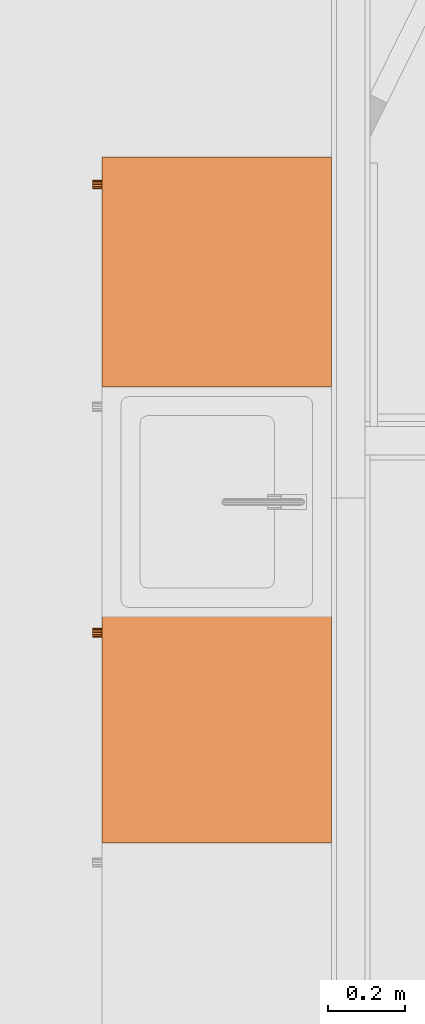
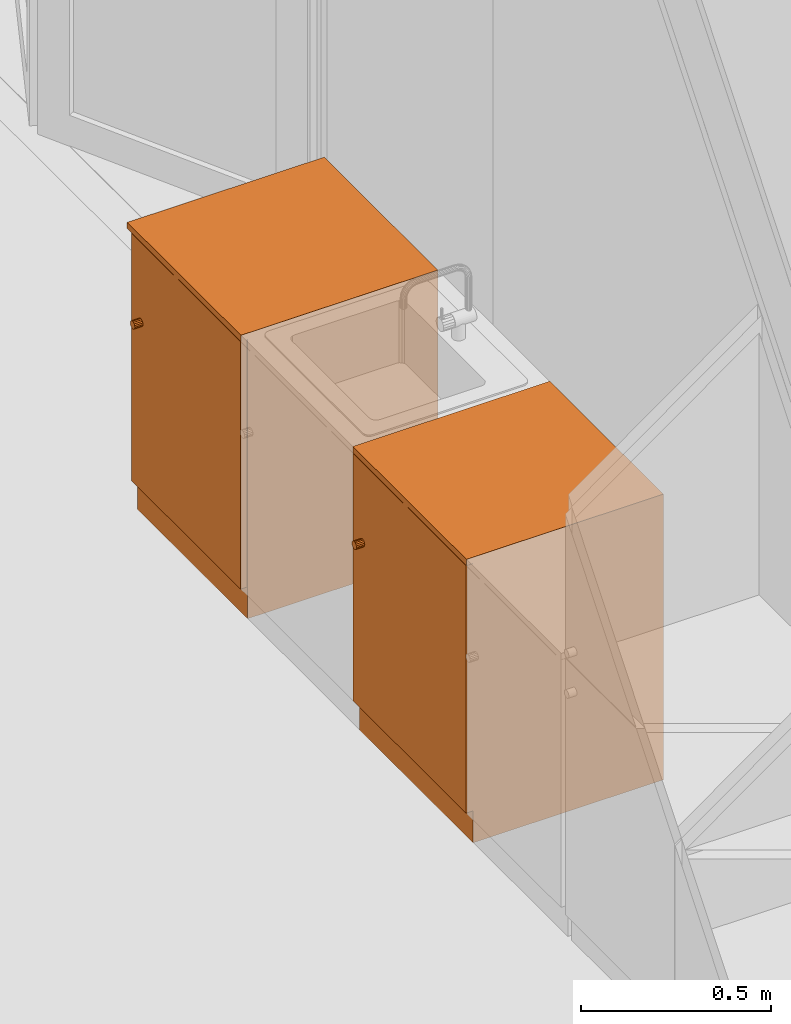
# One storey, part 81 of 167: 2 proxies.
"""IFC2X3 building model written with IfcOpenShell, lengths in millimetres."""

from ifc_helpers import new_model, entity, si_unit, converted_unit, derived_unit, money_unit, direction, frame, origin_with_axes, place, context, subcontext, project, spatial, faceted_brep, source, transform, mapped, type_object, type_shapes, element, save


model = new_model("IFC2X3")

# Units and contexts
model_context = context("Model", 3, precision=0.01, world=origin_with_axes(), true_north=direction((0.0, 1.0)))
plan_context = context("Plan", 3, precision=0.01, world=origin_with_axes(), true_north=direction((0.0, 1.0)))
body_context = subcontext(model_context, "Body", "Model", "MODEL_VIEW")
ifc_project = project(units=[si_unit("LENGTHUNIT", "METRE", prefix="MILLI"), si_unit("AREAUNIT", "SQUARE_METRE"), si_unit("VOLUMEUNIT", "CUBIC_METRE"), converted_unit("PLANEANGLEUNIT", "DEGREE", entity("IfcPlaneAngleMeasure", 0.0174532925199), si_unit("PLANEANGLEUNIT", "RADIAN"), dimensions=[0, 0, 0, 0, 0, 0, 0]), si_unit("SOLIDANGLEUNIT", "STERADIAN"), money_unit("EUR"), converted_unit("TIMEUNIT", "Year", entity("IfcTimeMeasure", 31556926.0), si_unit("TIMEUNIT", "SECOND"), dimensions=[0, 0, 1, 0, 0, 0, 0]), si_unit("MASSUNIT", "GRAM", prefix="KILO"), si_unit("THERMODYNAMICTEMPERATUREUNIT", "DEGREE_CELSIUS"), si_unit("LUMINOUSINTENSITYUNIT", "LUMEN"), si_unit("ENERGYUNIT", "JOULE", prefix="MEGA"), derived_unit("THERMALCONDUCTANCEUNIT", [(si_unit("POWERUNIT", "WATT"), 1), (si_unit("LENGTHUNIT", "METRE"), -1), (si_unit("THERMODYNAMICTEMPERATUREUNIT", "KELVIN"), -1)]), derived_unit("SPECIFICHEATCAPACITYUNIT", [(si_unit("ENERGYUNIT", "JOULE"), 1), (si_unit("MASSUNIT", "GRAM", prefix="KILO"), -1), (si_unit("THERMODYNAMICTEMPERATUREUNIT", "KELVIN"), -1)]), derived_unit("MASSDENSITYUNIT", [(si_unit("MASSUNIT", "GRAM", prefix="KILO"), 1), (si_unit("VOLUMEUNIT", "CUBIC_METRE"), -1)])], contexts=[model_context, plan_context])

# Site, building, storey
site_placement = place(None, origin_with_axes())
site = spatial("IfcSite", under=ifc_project, at=site_placement, Name="Site", CompositionType="ELEMENT")
building_placement = place(site_placement, origin_with_axes())
building = spatial("IfcBuilding", under=site, at=building_placement, Name="Naam gebouw", CompositionType="ELEMENT")
storey_placement = place(building_placement, origin_with_axes())
storey = spatial("IfcBuildingStorey", under=building, at=storey_placement, Name="Begane grond", CompositionType="ELEMENT", Elevation=0.0)

# Proxies
building_element_proxy_type = type_object("IfcBuildingElementProxyType", Name="Kast basis 1D 24", PredefinedType="NOTDEFINED")
shared_shape_1 = source(origin_with_axes(), body_context, "Body", "Brep", [
    faceted_brep([(0.0, 20.0, 0.0), (0.0, 20.0, 100.0), (-580.0, 20.0, 100.0), (-580.0, 20.0, 0.0), (0.0, 600.0, 0.0), (0.0, 600.0, 100.0), (-580.0, 600.0, 100.0), (-580.0, 600.0, 0.0)], [[[0, 1, 2, 3]], [[4, 5, 1, 0]], [[1, 5, 6, 2]], [[3, 2, 6, 7]], [[0, 3, 7, 4]], [[7, 6, 5, 4]]]),
    faceted_brep([(0.0, 20.0, 880.0), (0.0, 20.0, 900.0), (-20.0, 20.0, 900.0), (-20.0, 20.0, 880.0), (0.0, 600.0, 880.0), (0.0, 600.0, 900.0), (-20.0, 600.0, 900.0), (-560.0, 600.0, 900.0), (-580.0, 600.0, 900.0), (-580.0, 20.0, 900.0), (-560.0, 20.0, 900.0), (-560.0, 20.0, 880.0), (-580.0, 20.0, 880.0), (-580.0, 600.0, 880.0), (-560.0, 600.0, 880.0), (-20.0, 600.0, 880.0)], [[[0, 1, 2, 3]], [[4, 5, 1, 0]], [[1, 5, 6, 7, 8, 9, 10, 2]], [[3, 2, 10, 11]], [[0, 3, 11, 12, 13, 14, 15, 4]], [[15, 6, 5, 4]], [[14, 7, 6, 15]], [[13, 8, 7, 14]], [[12, 9, 8, 13]], [[11, 10, 9, 12]]]),
    faceted_brep([(0.0, 20.0, 100.0), (0.0, 20.0, 120.0), (-20.0, 20.0, 120.0), (-20.0, 20.0, 100.0), (0.0, 600.0, 100.0), (0.0, 600.0, 120.0), (-20.0, 600.0, 120.0), (-560.0, 600.0, 120.0), (-580.0, 600.0, 120.0), (-580.0, 20.0, 120.0), (-560.0, 20.0, 120.0), (-560.0, 20.0, 100.0), (-580.0, 20.0, 100.0), (-580.0, 600.0, 100.0), (-560.0, 600.0, 100.0), (-20.0, 600.0, 100.0)], [[[0, 1, 2, 3]], [[4, 5, 1, 0]], [[1, 5, 6, 7, 8, 9, 10, 2]], [[3, 2, 10, 11]], [[0, 3, 11, 12, 13, 14, 15, 4]], [[15, 6, 5, 4]], [[14, 7, 6, 15]], [[13, 8, 7, 14]], [[12, 9, 8, 13]], [[11, 10, 9, 12]]]),
    faceted_brep([(0.0, 20.0, 120.0), (0.0, 20.0, 880.0), (-20.0, 20.0, 880.0), (-20.0, 20.0, 120.0), (0.0, 600.0, 120.0), (0.0, 600.0, 880.0), (-580.0, 600.0, 880.0), (-580.0, 20.0, 880.0), (-560.0, 20.0, 880.0), (-560.0, 580.0, 880.0), (-20.0, 580.0, 880.0), (-20.0, 580.0, 120.0), (-560.0, 580.0, 120.0), (-560.0, 20.0, 120.0), (-580.0, 20.0, 120.0), (-580.0, 600.0, 120.0)], [[[0, 1, 2, 3]], [[4, 5, 1, 0]], [[1, 5, 6, 7, 8, 9, 10, 2]], [[3, 2, 10, 11]], [[0, 3, 11, 12, 13, 14, 15, 4]], [[15, 6, 5, 4]], [[14, 7, 6, 15]], [[13, 8, 7, 14]], [[12, 9, 8, 13]], [[11, 10, 9, 12]]]),
    faceted_brep([(-560.0, 20.0, 480.0), (-560.0, 20.0, 500.0), (-560.0, 580.0, 500.0), (-560.0, 580.0, 480.0), (-20.0, 20.0, 480.0), (-20.0, 20.0, 500.0), (-20.0, 580.0, 500.0), (-20.0, 580.0, 480.0)], [[[0, 1, 2, 3]], [[4, 5, 1, 0]], [[1, 5, 6, 2]], [[3, 2, 6, 7]], [[0, 3, 7, 4]], [[7, 6, 5, 4]]]),
    faceted_brep([(0.0, 0.0, 900.0), (0.0, 0.0, 920.0), (-600.0, 0.0, 920.0), (-600.0, 0.0, 900.0), (0.0, 600.0, 900.0), (0.0, 600.0, 920.0), (-600.0, 600.0, 920.0), (-600.0, 600.0, 900.0)], [[[0, 1, 2, 3]], [[4, 5, 1, 0]], [[1, 5, 6, 2]], [[3, 2, 6, 7]], [[0, 3, 7, 4]], [[7, 6, 5, 4]]]),
    faceted_brep([(-1.5, 20.0, 101.5), (-1.5, 0.0, 101.5), (-578.5, 0.0, 101.5), (-578.5, 20.0, 101.5), (-1.5, 20.0, 898.5), (-1.5, 0.0, 898.5), (-578.5, 0.0, 898.5), (-578.5, 20.0, 898.5)], [[[0, 1, 2, 3]], [[4, 5, 1, 0]], [[1, 5, 6, 2]], [[3, 2, 6, 7]], [[0, 3, 7, 4]], [[7, 6, 5, 4]]]),
    faceted_brep([(-539.58655439, 0.0, 636.907798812), (-540.5, 0.0, 641.5), (-539.58655439, 0.0, 646.092201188), (-536.985281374, 0.0, 649.985281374), (-533.092201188, 0.0, 652.58655439), (-528.5, 0.0, 653.5), (-523.907798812, 0.0, 652.58655439), (-520.014718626, 0.0, 649.985281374), (-517.41344561, 0.0, 646.092201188), (-516.5, 0.0, 641.5), (-517.41344561, 0.0, 636.907798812), (-520.014718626, 0.0, 633.014718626), (-523.907798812, 0.0, 630.41344561), (-528.5, 0.0, 629.5), (-533.092201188, 0.0, 630.41344561), (-536.985281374, 0.0, 633.014718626), (-539.58655439, -25.0, 636.907798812), (-540.5, -25.0, 641.5), (-539.58655439, -25.0, 646.092201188), (-536.985281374, -25.0, 649.985281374), (-533.092201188, -25.0, 652.58655439), (-528.5, -25.0, 653.5), (-523.907798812, -25.0, 652.58655439), (-520.014718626, -25.0, 649.985281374), (-517.41344561, -25.0, 646.092201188), (-516.5, -25.0, 641.5), (-517.41344561, -25.0, 636.907798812), (-520.014718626, -25.0, 633.014718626), (-523.907798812, -25.0, 630.41344561), (-528.5, -25.0, 629.5), (-533.092201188, -25.0, 630.41344561), (-536.985281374, -25.0, 633.014718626)], [[[0, 1, 2, 3, 4, 5, 6, 7, 8, 9, 10, 11, 12, 13, 14, 15]], [[0, 16, 17, 1]], [[1, 17, 18, 2]], [[2, 18, 19, 3]], [[3, 19, 20, 4]], [[4, 20, 21, 5]], [[5, 21, 22, 6]], [[6, 22, 23, 7]], [[7, 23, 24, 8]], [[8, 24, 25, 9]], [[9, 25, 26, 10]], [[10, 26, 27, 11]], [[11, 27, 28, 12]], [[12, 28, 29, 13]], [[13, 29, 30, 14]], [[14, 30, 31, 15]], [[15, 31, 16, 0]], [[16, 31, 30, 29, 28, 27, 26, 25, 24, 23, 22, 21, 20, 19, 18, 17]]]),
    faceted_brep([(-580.0, 21.5, 101.5), (-600.0, 21.5, 101.5), (-600.0, 598.5, 101.5), (-580.0, 598.5, 101.5), (-580.0, 21.5, 898.5), (-600.0, 21.5, 898.5), (-600.0, 598.5, 898.5), (-580.0, 598.5, 898.5)], [[[0, 1, 2, 3]], [[4, 5, 1, 0]], [[1, 5, 6, 2]], [[3, 2, 6, 7]], [[0, 3, 7, 4]], [[7, 6, 5, 4]]]),
])
proxy_1_placement = place(storey_placement, frame((9881.82723445, 3790.0, 0.0), z_axis=(0.0, 0.0, 1.0), x_axis=(0.0, -1.0, 0.0)))
element("IfcBuildingElementProxy", 1, at=proxy_1_placement, inside=storey, type_object=building_element_proxy_type, Name="__Object-x", context=body_context, shape_type="MappedRepresentation", body=[
    mapped(shared_shape_1, transform((0.0, 0.0, 0.0))),
])
shared_shape_2 = source(origin_with_axes(), body_context, "Body", "Brep", [
    faceted_brep([(0.0, 20.0, 0.0), (0.0, 20.0, 100.0), (-600.0, 20.0, 100.0), (-600.0, 20.0, 0.0), (0.0, 600.0, 0.0), (0.0, 600.0, 100.0), (-600.0, 600.0, 100.0), (-600.0, 600.0, 0.0)], [[[0, 1, 2, 3]], [[4, 5, 1, 0]], [[1, 5, 6, 2]], [[3, 2, 6, 7]], [[0, 3, 7, 4]], [[7, 6, 5, 4]]]),
    faceted_brep([(0.0, 20.0, 880.0), (0.0, 20.0, 900.0), (-20.0, 20.0, 900.0), (-20.0, 20.0, 880.0), (0.0, 600.0, 880.0), (0.0, 600.0, 900.0), (-20.0, 600.0, 900.0), (-580.0, 600.0, 900.0), (-600.0, 600.0, 900.0), (-600.0, 20.0, 900.0), (-580.0, 20.0, 900.0), (-580.0, 20.0, 880.0), (-600.0, 20.0, 880.0), (-600.0, 600.0, 880.0), (-580.0, 600.0, 880.0), (-20.0, 600.0, 880.0)], [[[0, 1, 2, 3]], [[4, 5, 1, 0]], [[1, 5, 6, 7, 8, 9, 10, 2]], [[3, 2, 10, 11]], [[0, 3, 11, 12, 13, 14, 15, 4]], [[15, 6, 5, 4]], [[14, 7, 6, 15]], [[13, 8, 7, 14]], [[12, 9, 8, 13]], [[11, 10, 9, 12]]]),
    faceted_brep([(0.0, 20.0, 100.0), (0.0, 20.0, 120.0), (-20.0, 20.0, 120.0), (-20.0, 20.0, 100.0), (0.0, 600.0, 100.0), (0.0, 600.0, 120.0), (-20.0, 600.0, 120.0), (-580.0, 600.0, 120.0), (-600.0, 600.0, 120.0), (-600.0, 20.0, 120.0), (-580.0, 20.0, 120.0), (-580.0, 20.0, 100.0), (-600.0, 20.0, 100.0), (-600.0, 600.0, 100.0), (-580.0, 600.0, 100.0), (-20.0, 600.0, 100.0)], [[[0, 1, 2, 3]], [[4, 5, 1, 0]], [[1, 5, 6, 7, 8, 9, 10, 2]], [[3, 2, 10, 11]], [[0, 3, 11, 12, 13, 14, 15, 4]], [[15, 6, 5, 4]], [[14, 7, 6, 15]], [[13, 8, 7, 14]], [[12, 9, 8, 13]], [[11, 10, 9, 12]]]),
    faceted_brep([(0.0, 20.0, 120.0), (0.0, 20.0, 880.0), (-20.0, 20.0, 880.0), (-20.0, 20.0, 120.0), (0.0, 600.0, 120.0), (0.0, 600.0, 880.0), (-600.0, 600.0, 880.0), (-600.0, 20.0, 880.0), (-580.0, 20.0, 880.0), (-580.0, 580.0, 880.0), (-20.0, 580.0, 880.0), (-20.0, 580.0, 120.0), (-580.0, 580.0, 120.0), (-580.0, 20.0, 120.0), (-600.0, 20.0, 120.0), (-600.0, 600.0, 120.0)], [[[0, 1, 2, 3]], [[4, 5, 1, 0]], [[1, 5, 6, 7, 8, 9, 10, 2]], [[3, 2, 10, 11]], [[0, 3, 11, 12, 13, 14, 15, 4]], [[15, 6, 5, 4]], [[14, 7, 6, 15]], [[13, 8, 7, 14]], [[12, 9, 8, 13]], [[11, 10, 9, 12]]]),
    faceted_brep([(-580.0, 20.0, 480.0), (-580.0, 20.0, 500.0), (-580.0, 580.0, 500.0), (-580.0, 580.0, 480.0), (-20.0, 20.0, 480.0), (-20.0, 20.0, 500.0), (-20.0, 580.0, 500.0), (-20.0, 580.0, 480.0)], [[[0, 1, 2, 3]], [[4, 5, 1, 0]], [[1, 5, 6, 2]], [[3, 2, 6, 7]], [[0, 3, 7, 4]], [[7, 6, 5, 4]]]),
    faceted_brep([(0.0, 0.0, 900.0), (0.0, 0.0, 920.0), (-600.0, 0.0, 920.0), (-600.0, 0.0, 900.0), (0.0, 600.0, 900.0), (0.0, 600.0, 920.0), (-600.0, 600.0, 920.0), (-600.0, 600.0, 900.0)], [[[0, 1, 2, 3]], [[4, 5, 1, 0]], [[1, 5, 6, 2]], [[3, 2, 6, 7]], [[0, 3, 7, 4]], [[7, 6, 5, 4]]]),
    faceted_brep([(-1.5, 20.0, 101.5), (-1.5, 0.0, 101.5), (-598.5, 0.0, 101.5), (-598.5, 20.0, 101.5), (-1.5, 20.0, 898.5), (-1.5, 0.0, 898.5), (-598.5, 0.0, 898.5), (-598.5, 20.0, 898.5)], [[[0, 1, 2, 3]], [[4, 5, 1, 0]], [[1, 5, 6, 2]], [[3, 2, 6, 7]], [[0, 3, 7, 4]], [[7, 6, 5, 4]]]),
    faceted_brep([(-559.58655439, 0.0, 636.907798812), (-560.5, 0.0, 641.5), (-559.58655439, 0.0, 646.092201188), (-556.985281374, 0.0, 649.985281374), (-553.092201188, 0.0, 652.58655439), (-548.5, 0.0, 653.5), (-543.907798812, 0.0, 652.58655439), (-540.014718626, 0.0, 649.985281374), (-537.41344561, 0.0, 646.092201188), (-536.5, 0.0, 641.5), (-537.41344561, 0.0, 636.907798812), (-540.014718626, 0.0, 633.014718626), (-543.907798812, 0.0, 630.41344561), (-548.5, 0.0, 629.5), (-553.092201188, 0.0, 630.41344561), (-556.985281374, 0.0, 633.014718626), (-559.58655439, -25.0, 636.907798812), (-560.5, -25.0, 641.5), (-559.58655439, -25.0, 646.092201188), (-556.985281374, -25.0, 649.985281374), (-553.092201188, -25.0, 652.58655439), (-548.5, -25.0, 653.5), (-543.907798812, -25.0, 652.58655439), (-540.014718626, -25.0, 649.985281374), (-537.41344561, -25.0, 646.092201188), (-536.5, -25.0, 641.5), (-537.41344561, -25.0, 636.907798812), (-540.014718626, -25.0, 633.014718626), (-543.907798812, -25.0, 630.41344561), (-548.5, -25.0, 629.5), (-553.092201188, -25.0, 630.41344561), (-556.985281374, -25.0, 633.014718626)], [[[0, 1, 2, 3, 4, 5, 6, 7, 8, 9, 10, 11, 12, 13, 14, 15]], [[0, 16, 17, 1]], [[1, 17, 18, 2]], [[2, 18, 19, 3]], [[3, 19, 20, 4]], [[4, 20, 21, 5]], [[5, 21, 22, 6]], [[6, 22, 23, 7]], [[7, 23, 24, 8]], [[8, 24, 25, 9]], [[9, 25, 26, 10]], [[10, 26, 27, 11]], [[11, 27, 28, 12]], [[12, 28, 29, 13]], [[13, 29, 30, 14]], [[14, 30, 31, 15]], [[15, 31, 16, 0]], [[16, 31, 30, 29, 28, 27, 26, 25, 24, 23, 22, 21, 20, 19, 18, 17]]]),
])
type_shapes(building_element_proxy_type, [shared_shape_1, shared_shape_2])
proxy_2_placement = place(storey_placement, frame((9881.82723445, 2600.0, 0.0), z_axis=(0.0, 0.0, 1.0), x_axis=(0.0, -1.0, 0.0)))
element("IfcBuildingElementProxy", 2, at=proxy_2_placement, inside=storey, type_object=building_element_proxy_type, Name="__Object-x", context=body_context, shape_type="MappedRepresentation", body=[
    mapped(shared_shape_2, transform((0.0, 0.0, 0.0))),
])

save(model, "model.ifc")
